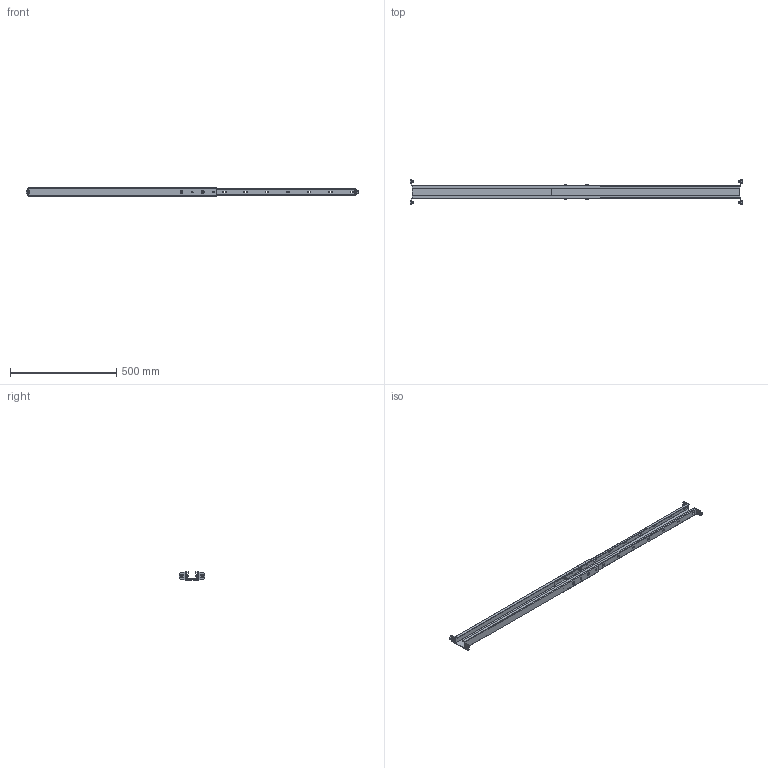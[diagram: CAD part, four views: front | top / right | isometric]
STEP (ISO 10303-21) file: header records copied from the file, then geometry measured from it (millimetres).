
FILE_DESCRIPTION(/* description */ ('Unknown'),/* implementation_level */ '2;1');
FILE_NAME(/* name */ '127.00637_01-1550mm',/* time_stamp */ '2025-03-27T11:17:06+01:00',/* author */ ('Unknown'),/* organization */ ('Unknown'),/* preprocessor_version */ 'ST-DEVELOPER v20',/* originating_system */ 'Solid Edge',/* authorisation */ 'Unknown');
FILE_SCHEMA (('AUTOMOTIVE_DESIGN {1 0 10303 214 3 1 1}'));
Length unit declared in the file: millimetre
Products named in the file (9): 127.00637; 096611~1; 096612~1; Sechskantmutter M6 DIN 934; Scheibe Ø6,4 DIN 125; 142.00081; 142.00018; 126.00495; Halbrundkopfschraube mit Innensechskant und Bund M6x16 ISO 7380-2
Assembly tree (26 placements, depth 2):
  127.00637
    096611~1
    096612~1
    Sechskantmutter M6 DIN 934  x4
    Scheibe Ø6,4 DIN 125  x4
    142.00081  x4
    142.00018  x4
    126.00495  x4
    Halbrundkopfschraube mit Innensechskant und Bund M6x16 ISO 7380-2  x4
Bounding box: 1563.8 x 120 x 40 mm (x, y, z)
Volume: 677424.3 mm3; surface area: 558094.2 mm2
Topology: 26 solids, 26 shells, 568 faces, 1426 edges, 930 vertices
Faces by surface type: plane 268, cylinder 192, torus 72, bspline 24, cone 8, sphere 4
Full cylindrical faces by diameter (mm): 4.917 x4, 6 x12, 6.4 x8, 8.5 x12, 10 x4, 11 x4, 12 x4, 13.6 x4
Entity records: 9317 total; most frequent: CARTESIAN_POINT 2084, DIRECTION 1396, ORIENTED_EDGE 1368, EDGE_CURVE 684, AXIS2_PLACEMENT_3D 491, VERTEX_POINT 468, LINE 414, VECTOR 414
